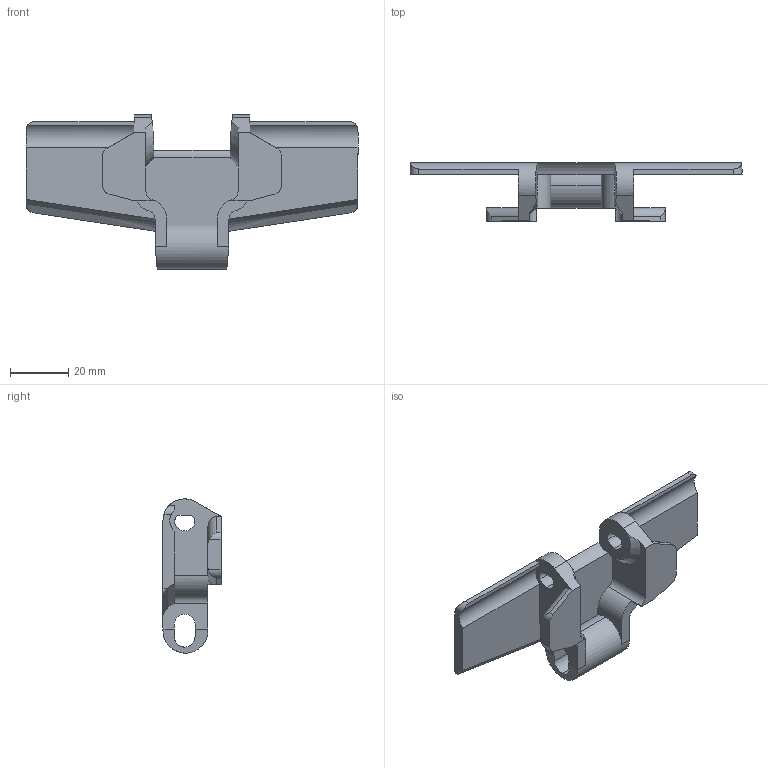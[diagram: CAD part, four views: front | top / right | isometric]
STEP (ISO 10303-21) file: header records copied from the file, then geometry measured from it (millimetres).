
FILE_DESCRIPTION (( 'STEP AP214' ), '1' );
FILE_NAME ('880TAB_K450.STEP', '2011-04-14T11:47:27', ( '.' ), ( '' ), 'SwSTEP 2.0', 'SolidWorks 2010', '' );
FILE_SCHEMA (( 'AUTOMOTIVE_DESIGN' ));
Length unit declared in the file: millimetre
Products named in the file (1): 880TAB_K450
Bounding box: 114.3 x 20 x 53.1 mm (x, y, z)
Volume: 22862.2 mm3; surface area: 13943.8 mm2
Topology: 1 solids, 1 shells, 94 faces, 283 edges, 187 vertices
Faces by surface type: plane 46, cylinder 43, cone 3, bspline 2
Entity records: 3322 total; most frequent: CARTESIAN_POINT 783, ORIENTED_EDGE 566, DIRECTION 500, EDGE_CURVE 283, VERTEX_POINT 187, LINE 168, VECTOR 168, AXIS2_PLACEMENT_3D 166
